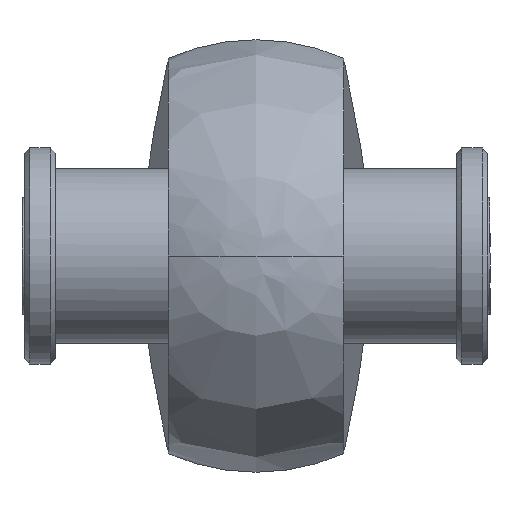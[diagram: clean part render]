
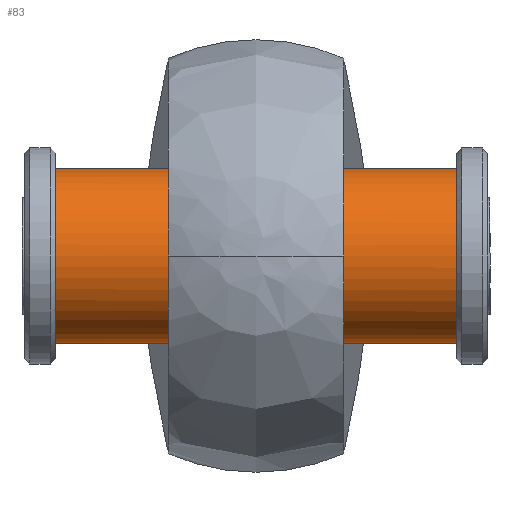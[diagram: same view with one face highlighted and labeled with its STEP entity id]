
A CAD part, left-side view. The second image highlights one B-rep face of the part: STEP entity #83.
In plain terms, the highlighted cylindrical face has radius 8.5 mm (diameter 17 mm), a full revolution.
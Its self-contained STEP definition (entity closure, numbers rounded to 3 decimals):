
#83=ADVANCED_FACE('',(#157),#1214,.T.);
#157=FACE_OUTER_BOUND('',#238,.T.);
#238=EDGE_LOOP('',(#506,#507,#508,#509));
#506=ORIENTED_EDGE('',*,*,#774,.T.);
#507=ORIENTED_EDGE('',*,*,#776,.T.);
#508=ORIENTED_EDGE('',*,*,#775,.T.);
#509=ORIENTED_EDGE('',*,*,#776,.F.);
#774=EDGE_CURVE('',#1128,#1128,#983,.T.);
#775=EDGE_CURVE('',#1129,#1129,#984,.T.);
#776=EDGE_CURVE('',#1128,#1129,#897,.T.);
#897=B_SPLINE_CURVE_WITH_KNOTS('',1,(#2248,#2249),.UNSPECIFIED.,.F.,.F.,
(2,2),(4.015,42.962),.UNSPECIFIED.);
#983=(
BOUNDED_CURVE()
B_SPLINE_CURVE(2,(#2230,#2231,#2232,#2233,#2234,#2235,#2236,#2237,#2238),
 .UNSPECIFIED.,.T.,.F.)
B_SPLINE_CURVE_WITH_KNOTS((3,2,2,2,3),(0.,13.352,26.704,
40.055,53.407),.UNSPECIFIED.)
CURVE()
GEOMETRIC_REPRESENTATION_ITEM()
RATIONAL_B_SPLINE_CURVE((1.,0.707,1.,0.707,1.,0.707,
1.,0.707,1.))
REPRESENTATION_ITEM('')
);
#984=(
BOUNDED_CURVE()
B_SPLINE_CURVE(2,(#2239,#2240,#2241,#2242,#2243,#2244,#2245,#2246,#2247),
 .UNSPECIFIED.,.T.,.F.)
B_SPLINE_CURVE_WITH_KNOTS((3,2,2,2,3),(0.,13.352,26.704,
40.055,53.407),.UNSPECIFIED.)
CURVE()
GEOMETRIC_REPRESENTATION_ITEM()
RATIONAL_B_SPLINE_CURVE((1.,0.707,1.,0.707,1.,0.707,
1.,0.707,1.))
REPRESENTATION_ITEM('')
);
#1128=VERTEX_POINT('',#2182);
#1129=VERTEX_POINT('',#2183);
#1214=CYLINDRICAL_SURFACE('',#1366,8.5);
#1366=AXIS2_PLACEMENT_3D('',#2172,#1412,$);
#1412=DIRECTION('',(0.,-1.,0.));
#2172=CARTESIAN_POINT('',(0.,0.,0.));
#2182=CARTESIAN_POINT('',(8.5,19.474,0.));
#2183=CARTESIAN_POINT('',(8.5,-19.474,0.));
#2230=CARTESIAN_POINT('',(8.5,19.474,0.));
#2231=CARTESIAN_POINT('',(8.5,19.474,8.5));
#2232=CARTESIAN_POINT('',(0.,19.474,8.5));
#2233=CARTESIAN_POINT('',(-8.5,19.474,8.5));
#2234=CARTESIAN_POINT('',(-8.5,19.474,0.));
#2235=CARTESIAN_POINT('',(-8.5,19.474,-8.5));
#2236=CARTESIAN_POINT('',(0.,19.474,-8.5));
#2237=CARTESIAN_POINT('',(8.5,19.474,-8.5));
#2238=CARTESIAN_POINT('',(8.5,19.474,0.));
#2239=CARTESIAN_POINT('',(8.5,-19.474,0.));
#2240=CARTESIAN_POINT('',(8.5,-19.474,-8.5));
#2241=CARTESIAN_POINT('',(0.,-19.474,-8.5));
#2242=CARTESIAN_POINT('',(-8.5,-19.474,-8.5));
#2243=CARTESIAN_POINT('',(-8.5,-19.474,0.));
#2244=CARTESIAN_POINT('',(-8.5,-19.474,8.5));
#2245=CARTESIAN_POINT('',(0.,-19.474,8.5));
#2246=CARTESIAN_POINT('',(8.5,-19.474,8.5));
#2247=CARTESIAN_POINT('',(8.5,-19.474,0.));
#2248=CARTESIAN_POINT('',(8.5,19.474,0.));
#2249=CARTESIAN_POINT('',(8.5,-19.474,0.));
